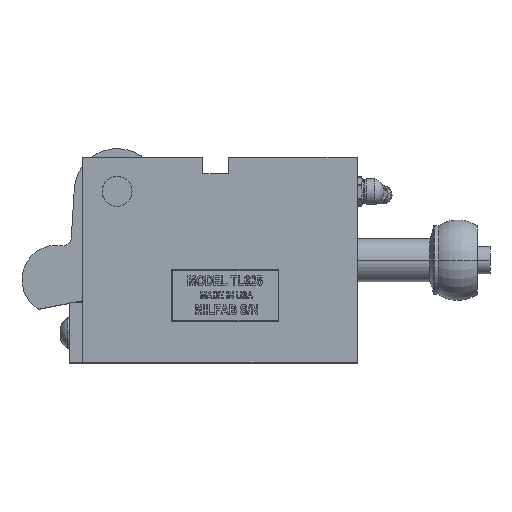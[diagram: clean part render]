
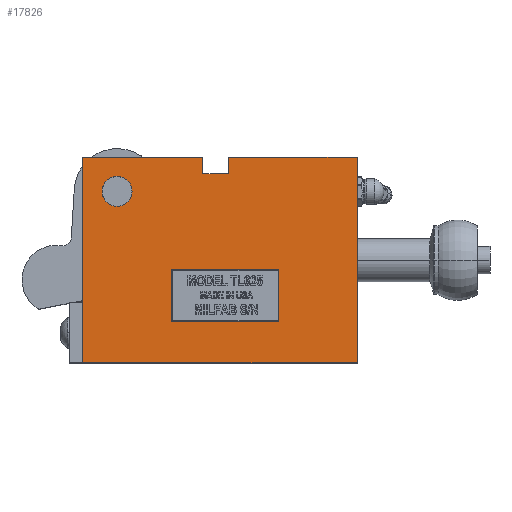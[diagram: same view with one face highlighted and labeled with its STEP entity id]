
A CAD part, top view. The second image highlights one B-rep face of the part: STEP entity #17826.
In plain terms, the highlighted planar face has unit normal (0, 0, 1).
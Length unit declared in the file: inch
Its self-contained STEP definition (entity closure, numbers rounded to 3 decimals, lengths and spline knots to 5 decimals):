
#558 = DIRECTION ( 'NONE',  ( 0., 1., 0. ) ) ;
#559 = VECTOR ( 'NONE', #558, 39.37008 ) ;
#560 = CARTESIAN_POINT ( 'NONE',  ( 9.66064, 2.77171, 0. ) ) ;
#561 = LINE ( 'NONE', #560, #559 ) ;
#569 = CARTESIAN_POINT ( 'NONE',  ( 9.66064, 2.77171, 0. ) ) ;
#2282 = CARTESIAN_POINT ( 'NONE',  ( 5.66064, 5.77171, 0. ) ) ;
#2298 = CARTESIAN_POINT ( 'NONE',  ( 7.78564, 5.77171, 0. ) ) ;
#2305 = CARTESIAN_POINT ( 'NONE',  ( 9.66064, 5.77171, 0. ) ) ;
#2306 = DIRECTION ( 'NONE',  ( -1., 0., 0. ) ) ;
#2307 = VECTOR ( 'NONE', #2306, 39.37008 ) ;
#2308 = CARTESIAN_POINT ( 'NONE',  ( 7.78564, 5.77171, 0. ) ) ;
#2309 = LINE ( 'NONE', #2308, #2307 ) ;
#2593 = CARTESIAN_POINT ( 'NONE',  ( 7.41064, 5.77171, 0. ) ) ;
#2602 = DIRECTION ( 'NONE',  ( -1., 0., 0. ) ) ;
#2603 = VECTOR ( 'NONE', #2602, 39.37008 ) ;
#2604 = CARTESIAN_POINT ( 'NONE',  ( 5.66064, 5.77171, 0. ) ) ;
#2605 = LINE ( 'NONE', #2604, #2603 ) ;
#3162 = CARTESIAN_POINT ( 'NONE',  ( 6.37864, 5.27171, 0. ) ) ;
#3163 = DIRECTION ( 'NONE',  ( 1., 0., 0. ) ) ;
#3164 = DIRECTION ( 'NONE',  ( 0., 0., 1. ) ) ;
#3165 = CARTESIAN_POINT ( 'NONE',  ( 6.16064, 5.27171, 0. ) ) ;
#3166 = AXIS2_PLACEMENT_3D ( 'NONE', #3165, #3164, #3163 ) ;
#3167 = CIRCLE ( 'NONE', #3166, 0.218 ) ;
#3485 = CARTESIAN_POINT ( 'NONE',  ( 5.94264, 5.27171, 0. ) ) ;
#9285 = VECTOR ( 'NONE', #9459, 39.37008 ) ;
#9415 = FACE_BOUND ( 'NONE', #17998, .T. ) ;
#9416 = FACE_BOUND ( 'NONE', #18016, .T. ) ;
#9423 = AXIS2_PLACEMENT_3D ( 'NONE', #9429, #9428, #9427 ) ;
#9424 = FACE_OUTER_BOUND ( 'NONE', #17994, .T. ) ;
#9425 = PLANE ( 'NONE',  #9423 ) ;
#9427 = DIRECTION ( 'NONE',  ( 1., 0., 0. ) ) ;
#9428 = DIRECTION ( 'NONE',  ( 0., 0., 1. ) ) ;
#9429 = CARTESIAN_POINT ( 'NONE',  ( 9.66064, 5.77171, 0. ) ) ;
#9430 = CARTESIAN_POINT ( 'NONE',  ( 7.78564, 5.53171, 0. ) ) ;
#9431 = LINE ( 'NONE', #9430, #9285 ) ;
#9433 = CARTESIAN_POINT ( 'NONE',  ( 7.41064, 5.53171, 0. ) ) ;
#9437 = CARTESIAN_POINT ( 'NONE',  ( 8.52064, 3.37171, 0. ) ) ;
#9438 = LINE ( 'NONE', #9437, #9440 ) ;
#9439 = DIRECTION ( 'NONE',  ( 0., 1., 0. ) ) ;
#9440 = VECTOR ( 'NONE', #9439, 39.37008 ) ;
#9441 = DIRECTION ( 'NONE',  ( -1., 0., 0. ) ) ;
#9442 = VECTOR ( 'NONE', #9441, 39.37008 ) ;
#9443 = CARTESIAN_POINT ( 'NONE',  ( 6.96064, 4.13171, 0. ) ) ;
#9444 = LINE ( 'NONE', #9443, #9442 ) ;
#9446 = CARTESIAN_POINT ( 'NONE',  ( 8.52064, 4.13171, 0. ) ) ;
#9459 = DIRECTION ( 'NONE',  ( 0., -1., 0. ) ) ;
#9467 = CIRCLE ( 'NONE', #9514, 0.218 ) ;
#9478 = LINE ( 'NONE', #9481, #9480 ) ;
#9479 = DIRECTION ( 'NONE',  ( 0., -1., 0. ) ) ;
#9480 = VECTOR ( 'NONE', #9479, 39.37008 ) ;
#9481 = CARTESIAN_POINT ( 'NONE',  ( 5.66064, 2.77171, 0. ) ) ;
#9490 = DIRECTION ( 'NONE',  ( -1., 0., 0. ) ) ;
#9491 = CARTESIAN_POINT ( 'NONE',  ( 7.41064, 5.53171, 0. ) ) ;
#9492 = LINE ( 'NONE', #9491, #9497 ) ;
#9493 = CARTESIAN_POINT ( 'NONE',  ( 7.78564, 5.53171, 0. ) ) ;
#9497 = VECTOR ( 'NONE', #9490, 39.37008 ) ;
#9503 = LINE ( 'NONE', #9587, #9583 ) ;
#9514 = AXIS2_PLACEMENT_3D ( 'NONE', #9537, #9540, #9585 ) ;
#9519 = LINE ( 'NONE', #9578, #9577 ) ;
#9537 = CARTESIAN_POINT ( 'NONE',  ( 6.16064, 5.27171, 0. ) ) ;
#9540 = DIRECTION ( 'NONE',  ( 0., 0., 1. ) ) ;
#9569 = CARTESIAN_POINT ( 'NONE',  ( 5.66064, 2.77171, 0. ) ) ;
#9576 = DIRECTION ( 'NONE',  ( 0., 1., 0. ) ) ;
#9577 = VECTOR ( 'NONE', #9576, 39.37008 ) ;
#9578 = CARTESIAN_POINT ( 'NONE',  ( 7.41064, 5.77171, 0. ) ) ;
#9583 = VECTOR ( 'NONE', #9586, 39.37008 ) ;
#9585 = DIRECTION ( 'NONE',  ( 1., 0., 0. ) ) ;
#9586 = DIRECTION ( 'NONE',  ( 1., 0., 0. ) ) ;
#9587 = CARTESIAN_POINT ( 'NONE',  ( 5.66064, 2.77171, 0. ) ) ;
#9680 = CARTESIAN_POINT ( 'NONE',  ( 6.96064, 3.37171, 0. ) ) ;
#9681 = LINE ( 'NONE', #9680, #9687 ) ;
#9682 = CARTESIAN_POINT ( 'NONE',  ( 6.96064, 4.13171, 0. ) ) ;
#9686 = DIRECTION ( 'NONE',  ( 0., -1., 0. ) ) ;
#9687 = VECTOR ( 'NONE', #9686, 39.37008 ) ;
#9689 = DIRECTION ( 'NONE',  ( 1., 0., 0. ) ) ;
#9690 = VECTOR ( 'NONE', #9689, 39.37008 ) ;
#9691 = CARTESIAN_POINT ( 'NONE',  ( 6.96064, 3.37171, 0. ) ) ;
#9692 = LINE ( 'NONE', #9691, #9690 ) ;
#9693 = CARTESIAN_POINT ( 'NONE',  ( 8.52064, 3.37171, 0. ) ) ;
#9734 = CARTESIAN_POINT ( 'NONE',  ( 6.96064, 3.37171, 0. ) ) ;
#15244 = EDGE_CURVE ( 'NONE', #15245, #15247, #2309, .T. ) ;
#15245 = VERTEX_POINT ( 'NONE', #2305 ) ;
#15247 = VERTEX_POINT ( 'NONE', #2298 ) ;
#15255 = VERTEX_POINT ( 'NONE', #2282 ) ;
#15258 = EDGE_CURVE ( 'NONE', #15260, #15255, #2605, .T. ) ;
#15260 = VERTEX_POINT ( 'NONE', #2593 ) ;
#15501 = EDGE_CURVE ( 'NONE', #15621, #15502, #3167, .T. ) ;
#15502 = VERTEX_POINT ( 'NONE', #3162 ) ;
#15621 = VERTEX_POINT ( 'NONE', #3485 ) ;
#17825 = ORIENTED_EDGE ( 'NONE', *, *, #17858, .F. ) ;
#17826 = ADVANCED_FACE ( 'NONE', ( #9416, #9415, #9424 ), #9425, .T. ) ;
#17832 = EDGE_CURVE ( 'NONE', #17999, #17840, #9438, .T. ) ;
#17834 = ORIENTED_EDGE ( 'NONE', *, *, #17832, .F. ) ;
#17835 = ORIENTED_EDGE ( 'NONE', *, *, #17911, .T. ) ;
#17836 = ORIENTED_EDGE ( 'NONE', *, *, #19644, .T. ) ;
#17838 = ORIENTED_EDGE ( 'NONE', *, *, #17839, .F. ) ;
#17839 = EDGE_CURVE ( 'NONE', #17840, #18007, #9444, .T. ) ;
#17840 = VERTEX_POINT ( 'NONE', #9446 ) ;
#17841 = ORIENTED_EDGE ( 'NONE', *, *, #18006, .F. ) ;
#17853 = VERTEX_POINT ( 'NONE', #9433 ) ;
#17857 = EDGE_CURVE ( 'NONE', #15247, #17873, #9431, .T. ) ;
#17858 = EDGE_CURVE ( 'NONE', #15502, #15621, #9467, .T. ) ;
#17859 = ORIENTED_EDGE ( 'NONE', *, *, #15501, .F. ) ;
#17872 = EDGE_CURVE ( 'NONE', #17873, #17853, #9492, .T. ) ;
#17873 = VERTEX_POINT ( 'NONE', #9493 ) ;
#17889 = EDGE_CURVE ( 'NONE', #15255, #17938, #9478, .T. ) ;
#17911 = EDGE_CURVE ( 'NONE', #17938, #19645, #9503, .T. ) ;
#17935 = EDGE_CURVE ( 'NONE', #17853, #15260, #9519, .T. ) ;
#17938 = VERTEX_POINT ( 'NONE', #9569 ) ;
#17994 = EDGE_LOOP ( 'NONE', ( #17995, #18003, #18004, #18002, #18014, #18015, #17835, #17836 ) ) ;
#17995 = ORIENTED_EDGE ( 'NONE', *, *, #15244, .T. ) ;
#17997 = EDGE_CURVE ( 'NONE', #18001, #17999, #9692, .T. ) ;
#17998 = EDGE_LOOP ( 'NONE', ( #17825, #17859 ) ) ;
#17999 = VERTEX_POINT ( 'NONE', #9693 ) ;
#18000 = ORIENTED_EDGE ( 'NONE', *, *, #17997, .F. ) ;
#18001 = VERTEX_POINT ( 'NONE', #9734 ) ;
#18002 = ORIENTED_EDGE ( 'NONE', *, *, #17935, .T. ) ;
#18003 = ORIENTED_EDGE ( 'NONE', *, *, #17857, .T. ) ;
#18004 = ORIENTED_EDGE ( 'NONE', *, *, #17872, .T. ) ;
#18006 = EDGE_CURVE ( 'NONE', #18007, #18001, #9681, .T. ) ;
#18007 = VERTEX_POINT ( 'NONE', #9682 ) ;
#18014 = ORIENTED_EDGE ( 'NONE', *, *, #15258, .T. ) ;
#18015 = ORIENTED_EDGE ( 'NONE', *, *, #17889, .T. ) ;
#18016 = EDGE_LOOP ( 'NONE', ( #17841, #17838, #17834, #18000 ) ) ;
#19644 = EDGE_CURVE ( 'NONE', #19645, #15245, #561, .T. ) ;
#19645 = VERTEX_POINT ( 'NONE', #569 ) ;
